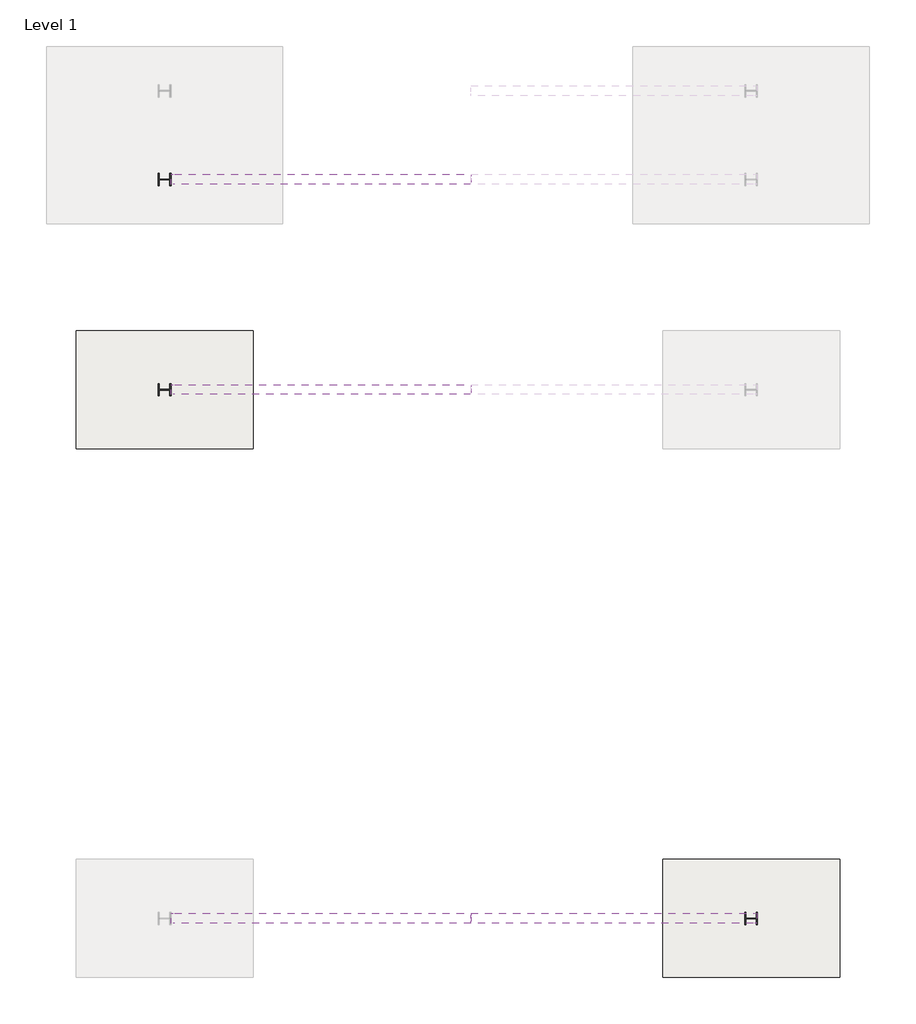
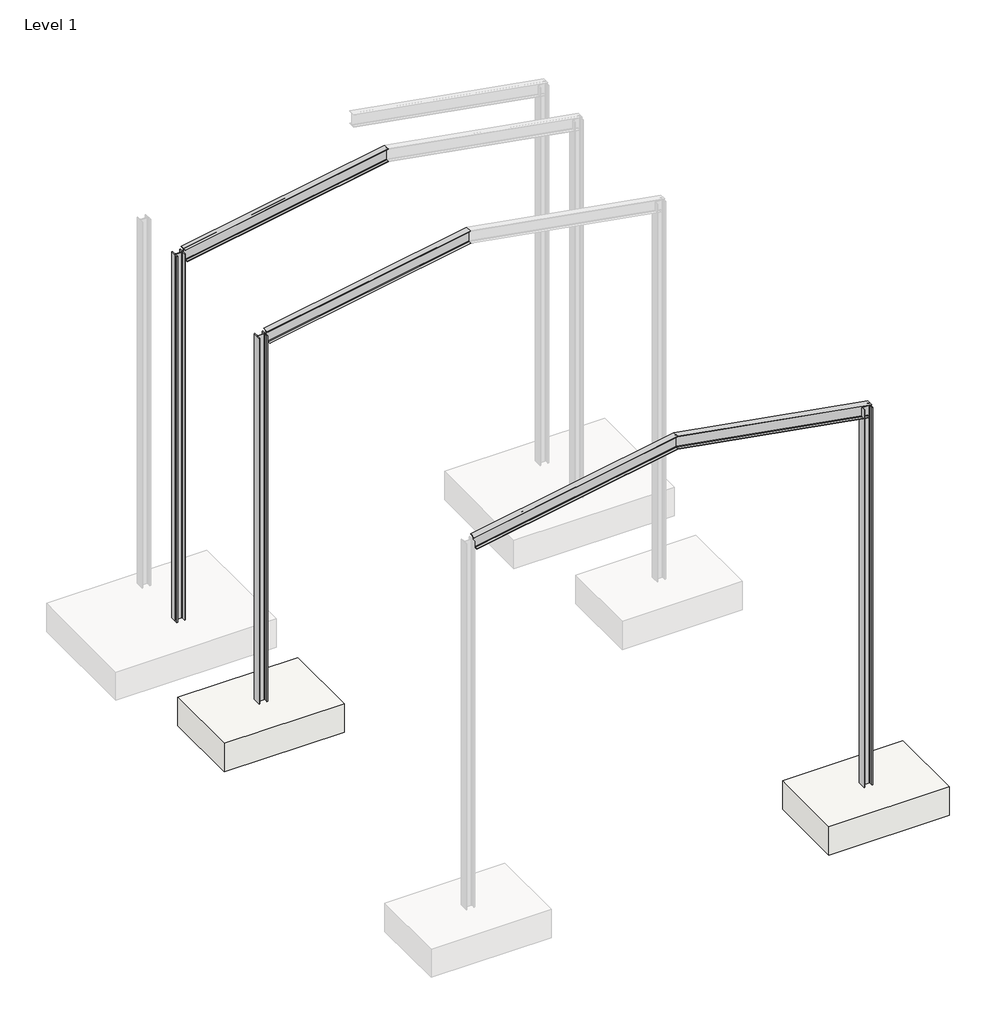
# One storey, part 2 of 3: 4 beams, 3 columns, 2 slabs.
"""IFC4 building model written with IfcOpenShell, lengths in millimetres."""

from ifc_helpers import new_model, si_unit, point, frame, frame_2d, origin, place, context, project, spatial, polyline, circle_curve, ellipse_curve, trimmed, segment, composite_curve, outline, extrude, transform, mapped, element, save
from ifc_brep_helpers import plane_surface, revolved_surface, advanced_brep
from components import slab_5ba74754

model = new_model("IFC4")

# Units and contexts
model_context = context("Model", 3, world=origin())
ifc_project = project(units=[si_unit("LENGTHUNIT", "METRE", prefix="MILLI")], contexts=[model_context])

# Site, building, storey
site = spatial("IfcSite", under=ifc_project)
building = spatial("IfcBuilding", under=site)
storey = spatial("IfcBuildingStorey", under=building, Name="Level 1", Elevation=0.0)

# Beams
placement = place(None, origin())
element("IfcBeam", 1, ObjectType="W Shapes : W8X10", at=placement, inside=storey, context=model_context, shape_type="AdvancedBrep", body=[
    advanced_brep(
    [(-3052.4401664, 8000.6633153, 6330.8839899), (-3052.4401664, 8100.7393153, 6330.8839899), (-6145.2600056, 8100.7393153, 5785.5364057), (-6145.2600056, 8000.6633153, 5785.5364057), (-6111.3640549, 8100.7393153, 5593.3029172), (-6110.4598689, 8100.7393153, 5588.1750232), (-6110.4598689, 8000.6633153, 5588.1750232), (-6111.3640549, 8000.6633153, 5593.3029172), (-6111.3640549, 8040.9223153, 5593.3029172), (-6112.687254, 8048.5423153, 5600.8071522), (-6143.0326204, 8048.5423153, 5772.9042767), (-6144.3558195, 8040.9223153, 5780.4085118), (-6144.3558195, 8000.6633153, 5780.4085118), (-6144.3558195, 8100.7393153, 5780.4085118), (-6144.3558195, 8060.4803153, 5780.4085118), (-6143.0326204, 8052.8603153, 5772.9042767), (-6112.687254, 8052.8603153, 5600.8071522), (-6111.3640549, 8060.4803153, 5593.3029172), (-3052.4401664, 8060.4803153, 6132.6737306), (-3052.4401664, 8100.7393153, 6132.6737306), (-3052.4401664, 8052.8603153, 6140.4112814), (-3052.4401664, 8052.8603153, 6317.8591127), (-3052.4401664, 8060.4803153, 6325.5966635), (-3052.4401664, 8100.7393153, 6325.5966635), (-3052.4401664, 8000.6633153, 6325.5966635), (-3052.4401664, 8040.9223153, 6325.5966635), (-3052.4401664, 8048.5423153, 6317.8591127), (-3052.4401664, 8048.5423153, 6140.4112814), (-3052.4401664, 8040.9223153, 6132.6737306), (-3052.4401664, 8000.6633153, 6132.6737306), (-3052.4401664, 8000.6633153, 6127.3864043), (-3052.4401664, 8100.7393153, 6127.3864043)],
    [
        (0, 1),
        (1, 2),
        (2, 3),
        (3, 0),
        (4, 5),
        (5, 6),
        (6, 7),
        (7, 8),
        (8, 9, circle_curve(frame((-6112.687254, 8040.9223153, 5600.8071522), z_axis=(0.9848077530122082, 0.0, 0.17364817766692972), x_axis=(0.0, -1.0000000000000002, 0.0)), 7.62)),
        (9, 10),
        (10, 11, circle_curve(frame((-6143.0326204, 8040.9223153, 5772.9042767), z_axis=(0.9848077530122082, 0.0, 0.17364817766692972), x_axis=(0.0, -1.0000000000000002, 0.0)), 7.62)),
        (11, 12),
        (12, 3),
        (2, 13),
        (13, 14),
        (14, 15, circle_curve(frame((-6143.0326204, 8060.4803153, 5772.9042767), z_axis=(0.9848077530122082, 0.0, 0.17364817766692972), x_axis=(0.0, -1.0000000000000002, 0.0)), 7.62)),
        (15, 16),
        (16, 17, circle_curve(frame((-6112.687254, 8060.4803153, 5600.8071522), z_axis=(0.9848077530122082, 0.0, 0.17364817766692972), x_axis=(0.0, -1.0000000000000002, 0.0)), 7.62)),
        (17, 4),
        (18, 19),
        (19, 4),
        (17, 18),
        (20, 18, ellipse_curve(frame((-3052.4401664, 8060.4803153, 6140.4112814), z_axis=(1.0, 0.0, 0.0), x_axis=(0.0, 0.0, -1.0)), 7.7375508, 7.62)),
        (16, 20),
        (21, 20),
        (15, 21),
        (22, 21, ellipse_curve(frame((-3052.4401664, 8060.4803153, 6317.8591127), z_axis=(1.0, 0.0, 0.0), x_axis=(0.0, 0.0, -1.0)), 7.7375508, 7.62)),
        (14, 22),
        (23, 22),
        (13, 23),
        (1, 23),
        (24, 0),
        (12, 24),
        (25, 24),
        (11, 25),
        (26, 25, ellipse_curve(frame((-3052.4401664, 8040.9223153, 6317.8591127), z_axis=(1.0, 0.0, 0.0), x_axis=(0.0, 0.0, -1.0)), 7.7375508, 7.62)),
        (10, 26),
        (27, 26),
        (9, 27),
        (28, 27, ellipse_curve(frame((-3052.4401664, 8040.9223153, 6140.4112814), z_axis=(1.0, 0.0, 0.0), x_axis=(0.0, 0.0, -1.0)), 7.7375508, 7.62)),
        (8, 28),
        (29, 28),
        (7, 29),
        (30, 29),
        (6, 30),
        (31, 30),
        (5, 31),
        (19, 31),
    ],
    [
        plane_surface(frame((-3052.4401664, 8100.7393153, 6330.8839899), z_axis=(-0.17364817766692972, 0.0, 0.9848077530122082), x_axis=(-0.9848077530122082, 0.0, -0.17364817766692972))),
        plane_surface(frame((-6127.8599372, 8050.7013153, 5686.8557145), z_axis=(-0.9848077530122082, 0.0, -0.17364817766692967), x_axis=(-0.17364817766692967, 0.0, 0.9848077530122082))),
        plane_surface(frame((-3018.5442158, 8100.7393153, 6138.6505013), z_axis=(-0.17364817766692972, 0.0, 0.9848077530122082), x_axis=(-0.9848077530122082, 0.0, -0.17364817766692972))),
        revolved_surface(polyline([(-6112.687254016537, 8052.8603153, 5600.807152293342), (-3051.1169672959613, 8052.8603153, 6140.644597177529)]), (-3019.8674149, 8060.4803153, 6146.1547364), (-0.9848077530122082, 0.0, -0.17364817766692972)),
        plane_surface(frame((-3019.8674149, 8052.8603153, 6146.1547364), z_axis=(0.0, 1.0000000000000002, 0.0), x_axis=(-0.9848077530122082, 0.0, -0.17364817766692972))),
        revolved_surface(polyline([(-6143.032620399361, 8052.8603153, 5772.904276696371), (-3051.116967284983, 8052.8603153, 6318.092428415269)]), (-3050.2127813, 8060.4803153, 6318.2518608), (-0.9848077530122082, 0.0, -0.17364817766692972)),
        plane_surface(frame((-3051.5359804, 8060.4803153, 6325.7560959), z_axis=(0.17364817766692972, 0.0, -0.9848077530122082), x_axis=(-0.9848077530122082, 0.0, -0.17364817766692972))),
        plane_surface(frame((-3051.5359804, 8100.7393153, 6325.7560959), z_axis=(0.0, 1.0000000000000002, 0.0), x_axis=(-0.9848077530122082, 0.0, -0.17364817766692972))),
        plane_surface(frame((-3052.4401664, 8000.6633153, 6330.8839899), z_axis=(0.0, -1.0000000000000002, 0.0), x_axis=(-0.9848077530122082, 0.0, -0.17364817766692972))),
        plane_surface(frame((-3051.5359804, 8000.6633153, 6325.7560959), z_axis=(0.17364817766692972, 0.0, -0.9848077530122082), x_axis=(-0.9848077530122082, 0.0, -0.17364817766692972))),
        revolved_surface(polyline([(-6143.032620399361, 8033.3023153, 5772.904276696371), (-3051.116967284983, 8033.3023153, 6318.092428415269)]), (-3050.2127813, 8040.9223153, 6318.2518608), (-0.9848077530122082, 0.0, -0.17364817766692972)),
        plane_surface(frame((-3050.2127813, 8048.5423153, 6318.2518608), z_axis=(0.0, -1.0000000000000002, 0.0), x_axis=(-0.9848077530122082, 0.0, -0.17364817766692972))),
        revolved_surface(polyline([(-6112.687254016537, 8033.3023153, 5600.807152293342), (-3051.1169672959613, 8033.3023153, 6140.644597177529)]), (-3019.8674149, 8040.9223153, 6146.1547364), (-0.9848077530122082, 0.0, -0.17364817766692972)),
        plane_surface(frame((-3018.5442158, 8040.9223153, 6138.6505013), z_axis=(-0.17364817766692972, 0.0, 0.9848077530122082), x_axis=(-0.9848077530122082, 0.0, -0.17364817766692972))),
        plane_surface(frame((-3018.5442158, 8000.6633153, 6138.6505013), z_axis=(0.0, -1.0000000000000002, 0.0), x_axis=(-0.9848077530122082, 0.0, -0.17364817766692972))),
        plane_surface(frame((-3017.6400297, 8000.6633153, 6133.5226073), z_axis=(0.17364817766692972, 0.0, -0.9848077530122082), x_axis=(-0.9848077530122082, 0.0, -0.17364817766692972))),
        plane_surface(frame((-3017.6400297, 8100.7393153, 6133.5226073), z_axis=(0.0, 1.0000000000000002, 0.0), x_axis=(-0.9848077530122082, 0.0, -0.17364817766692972))),
        plane_surface(frame((-3052.4401664, 8050.7013153, 6330.8839899), z_axis=(1.0, 0.0, 0.0), x_axis=(0.0, -1.0, 0.0))),
    ],
    [
        (0, [[1, 2, 3, 4]]),
        (1, [[5, 6, 7, 8, 9, 10, 11, 12, 13, -3, 14, 15, 16, 17, 18, 19]]),
        (2, [[20, 21, -19, 22]]),
        (3, [[23, -22, -18, 24]]),
        (4, [[25, -24, -17, 26]]),
        (5, [[27, -26, -16, 28]]),
        (6, [[29, -28, -15, 30]]),
        (7, [[31, -30, -14, -2]]),
        (8, [[32, -4, -13, 33]]),
        (9, [[34, -33, -12, 35]]),
        (10, [[36, -35, -11, 37]]),
        (11, [[38, -37, -10, 39]]),
        (12, [[40, -39, -9, 41]]),
        (13, [[42, -41, -8, 43]]),
        (14, [[44, -43, -7, 45]]),
        (15, [[46, -45, -6, 47]]),
        (16, [[48, -47, -5, -21]]),
        (17, [[-20, -23, -25, -27, -29, -31, -1, -32, -34, -36, -38, -40, -42, -44, -46, -48]]),
    ],
),
])
element("IfcBeam", 2, ObjectType="W Shapes : W8X10", at=placement, inside=storey, context=model_context, shape_type="AdvancedBrep", body=[
    advanced_brep(
    [(-100.7743691, 8000.6633153, 5810.4256718), (-100.7743691, 8100.7393153, 5810.4256718), (-3052.4401664, 8100.7393153, 6330.8839899), (-3052.4401664, 8000.6633153, 6330.8839899), (-134.6703197, 8100.7393153, 5618.1921832), (-134.6703197, 8060.4803153, 5618.1921832), (-133.3471206, 8052.8603153, 5625.6964182), (-103.0017543, 8052.8603153, 5797.7935427), (-101.6785552, 8060.4803153, 5805.2977778), (-101.6785552, 8100.7393153, 5805.2977778), (-101.6785552, 8000.6633153, 5805.2977778), (-101.6785552, 8040.9223153, 5805.2977778), (-103.0017543, 8048.5423153, 5797.7935427), (-133.3471206, 8048.5423153, 5625.6964182), (-134.6703197, 8040.9223153, 5618.1921832), (-134.6703197, 8000.6633153, 5618.1921832), (-135.5745058, 8000.6633153, 5613.0642892), (-135.5745058, 8100.7393153, 5613.0642892), (-3052.4401664, 8100.7393153, 6132.6737306), (-3052.4401664, 8060.4803153, 6132.6737306), (-3052.4401664, 8052.8603153, 6140.4112814), (-3052.4401664, 8052.8603153, 6317.8591127), (-3052.4401664, 8060.4803153, 6325.5966635), (-3052.4401664, 8100.7393153, 6325.5966635), (-3052.4401664, 8000.6633153, 6325.5966635), (-3052.4401664, 8040.9223153, 6325.5966635), (-3052.4401664, 8048.5423153, 6317.8591127), (-3052.4401664, 8048.5423153, 6140.4112814), (-3052.4401664, 8040.9223153, 6132.6737306), (-3052.4401664, 8000.6633153, 6132.6737306), (-3052.4401664, 8000.6633153, 6127.3864043), (-3052.4401664, 8100.7393153, 6127.3864043)],
    [
        (0, 1),
        (1, 2),
        (2, 3),
        (3, 0),
        (4, 5),
        (5, 6, circle_curve(frame((-133.3471206, 8060.4803153, 5625.6964182), z_axis=(-0.9848077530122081, 0.0, 0.17364817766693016), x_axis=(0.0, -1.0, 0.0)), 7.62)),
        (6, 7),
        (7, 8, circle_curve(frame((-103.0017543, 8060.4803153, 5797.7935427), z_axis=(-0.9848077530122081, 0.0, 0.17364817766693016), x_axis=(0.0, -1.0, 0.0)), 7.62)),
        (8, 9),
        (9, 1),
        (0, 10),
        (10, 11),
        (11, 12, circle_curve(frame((-103.0017543, 8040.9223153, 5797.7935427), z_axis=(-0.9848077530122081, 0.0, 0.17364817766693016), x_axis=(0.0, -1.0, 0.0)), 7.62)),
        (12, 13),
        (13, 14, circle_curve(frame((-133.3471206, 8040.9223153, 5625.6964182), z_axis=(-0.9848077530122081, 0.0, 0.17364817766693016), x_axis=(0.0, -1.0, 0.0)), 7.62)),
        (14, 15),
        (15, 16),
        (16, 17),
        (17, 4),
        (4, 18),
        (18, 19),
        (19, 5),
        (19, 20, ellipse_curve(frame((-3052.4401664, 8060.4803153, 6140.4112814), z_axis=(-1.0, 0.0, 0.0), x_axis=(0.0, 0.0, 1.0)), 7.7375508, 7.62)),
        (20, 6),
        (20, 21),
        (21, 7),
        (21, 22, ellipse_curve(frame((-3052.4401664, 8060.4803153, 6317.8591127), z_axis=(-1.0, 0.0, 0.0), x_axis=(0.0, 0.0, 1.0)), 7.7375508, 7.62)),
        (22, 8),
        (22, 23),
        (23, 9),
        (23, 2),
        (3, 24),
        (24, 10),
        (24, 25),
        (25, 11),
        (25, 26, ellipse_curve(frame((-3052.4401664, 8040.9223153, 6317.8591127), z_axis=(-1.0, 0.0, 0.0), x_axis=(0.0, 0.0, 1.0)), 7.7375508, 7.62)),
        (26, 12),
        (26, 27),
        (27, 13),
        (27, 28, ellipse_curve(frame((-3052.4401664, 8040.9223153, 6140.4112814), z_axis=(-1.0, 0.0, 0.0), x_axis=(0.0, 0.0, 1.0)), 7.7375508, 7.62)),
        (28, 14),
        (28, 29),
        (29, 15),
        (29, 30),
        (30, 16),
        (30, 31),
        (31, 17),
        (31, 18),
    ],
    [
        plane_surface(frame((-100.7743691, 8100.7393153, 5810.4256718), z_axis=(0.17364817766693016, 0.0, 0.9848077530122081), x_axis=(-0.9848077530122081, 0.0, 0.17364817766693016))),
        plane_surface(frame((-118.1744374, 8050.7013153, 5711.7449805), z_axis=(0.9848077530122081, 0.0, -0.1736481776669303), x_axis=(0.1736481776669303, 0.0, 0.9848077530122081))),
        plane_surface(frame((-134.6703197, 8100.7393153, 5618.1921832), z_axis=(0.17364817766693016, 0.0, 0.9848077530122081), x_axis=(-0.9848077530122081, 0.0, 0.17364817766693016))),
        revolved_surface(polyline([(-3053.763365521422, 8052.8603153, 6140.644597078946), (-133.34712059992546, 8052.8603153, 5625.696418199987)]), (-133.3471206, 8060.4803153, 5625.6964182), (-0.9848077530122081, 0.0, 0.17364817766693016)),
        plane_surface(frame((-133.3471206, 8052.8603153, 5625.6964182), z_axis=(0.0, 1.0, 0.0), x_axis=(-0.9848077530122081, 0.0, 0.17364817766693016))),
        revolved_surface(polyline([(-3053.763365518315, 8052.8603153, 6318.0924283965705), (-103.0017543, 8052.8603153, 5797.7935427)]), (-103.0017543, 8060.4803153, 5797.7935427), (-0.9848077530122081, 0.0, 0.17364817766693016)),
        plane_surface(frame((-101.6785552, 8060.4803153, 5805.2977778), z_axis=(-0.17364817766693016, 0.0, -0.9848077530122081), x_axis=(-0.9848077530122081, 0.0, 0.17364817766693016))),
        plane_surface(frame((-101.6785552, 8100.7393153, 5805.2977778), z_axis=(0.0, 1.0, 0.0), x_axis=(-0.9848077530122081, 0.0, 0.17364817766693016))),
        plane_surface(frame((-100.7743691, 8000.6633153, 5810.4256718), z_axis=(0.0, -1.0, 0.0), x_axis=(-0.9848077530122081, 0.0, 0.17364817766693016))),
        plane_surface(frame((-101.6785552, 8000.6633153, 5805.2977778), z_axis=(-0.17364817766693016, 0.0, -0.9848077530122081), x_axis=(-0.9848077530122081, 0.0, 0.17364817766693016))),
        revolved_surface(polyline([(-3053.763365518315, 8033.3023153, 6318.0924283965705), (-103.0017543, 8033.3023153, 5797.7935427)]), (-103.0017543, 8040.9223153, 5797.7935427), (-0.9848077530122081, 0.0, 0.17364817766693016)),
        plane_surface(frame((-103.0017543, 8048.5423153, 5797.7935427), z_axis=(0.0, -1.0, 0.0), x_axis=(-0.9848077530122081, 0.0, 0.17364817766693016))),
        revolved_surface(polyline([(-3053.763365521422, 8033.3023153, 6140.644597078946), (-133.34712059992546, 8033.3023153, 5625.696418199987)]), (-133.3471206, 8040.9223153, 5625.6964182), (-0.9848077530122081, 0.0, 0.17364817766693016)),
        plane_surface(frame((-134.6703197, 8040.9223153, 5618.1921832), z_axis=(0.17364817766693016, 0.0, 0.9848077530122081), x_axis=(-0.9848077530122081, 0.0, 0.17364817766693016))),
        plane_surface(frame((-134.6703197, 8000.6633153, 5618.1921832), z_axis=(0.0, -1.0, 0.0), x_axis=(-0.9848077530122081, 0.0, 0.17364817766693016))),
        plane_surface(frame((-135.5745058, 8000.6633153, 5613.0642892), z_axis=(-0.17364817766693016, 0.0, -0.9848077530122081), x_axis=(-0.9848077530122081, 0.0, 0.17364817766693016))),
        plane_surface(frame((-135.5745058, 8100.7393153, 5613.0642892), z_axis=(0.0, 1.0, 0.0), x_axis=(-0.9848077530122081, 0.0, 0.17364817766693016))),
        plane_surface(frame((-3052.4401664, 8050.7013153, 6330.8839899), z_axis=(-1.0, 0.0, 0.0), x_axis=(0.0, 1.0, 0.0))),
    ],
    [
        (0, [[1, 2, 3, 4]]),
        (1, [[5, 6, 7, 8, 9, 10, -1, 11, 12, 13, 14, 15, 16, 17, 18, 19]]),
        (2, [[-5, 20, 21, 22]]),
        (3, [[-6, -22, 23, 24]]),
        (4, [[-7, -24, 25, 26]]),
        (5, [[-8, -26, 27, 28]]),
        (6, [[-9, -28, 29, 30]]),
        (7, [[-10, -30, 31, -2]]),
        (8, [[-11, -4, 32, 33]]),
        (9, [[-12, -33, 34, 35]]),
        (10, [[-13, -35, 36, 37]]),
        (11, [[-14, -37, 38, 39]]),
        (12, [[-15, -39, 40, 41]]),
        (13, [[-16, -41, 42, 43]]),
        (14, [[-17, -43, 44, 45]]),
        (15, [[-18, -45, 46, 47]]),
        (16, [[-19, -47, 48, -20]]),
        (17, [[-48, -46, -44, -42, -40, -38, -36, -34, -32, -3, -31, -29, -27, -25, -23, -21]]),
    ],
),
])
element("IfcBeam", 3, ObjectType="W Shapes : W8X10", at=placement, inside=storey, context=model_context, shape_type="AdvancedBrep", body=[
    advanced_brep(
    [(-3052.4401664, 13457.1276009, 6330.8839899), (-3052.4401664, 13557.2036009, 6330.8839899), (-6145.2600056, 13557.2036009, 5785.5364057), (-6145.2600056, 13457.1276009, 5785.5364057), (-6111.3640549, 13557.2036009, 5593.3029172), (-6110.4598689, 13557.2036009, 5588.1750232), (-6110.4598689, 13457.1276009, 5588.1750232), (-6111.3640549, 13457.1276009, 5593.3029172), (-6111.3640549, 13497.3866009, 5593.3029172), (-6112.687254, 13505.0066009, 5600.8071522), (-6143.0326204, 13505.0066009, 5772.9042767), (-6144.3558195, 13497.3866009, 5780.4085118), (-6144.3558195, 13457.1276009, 5780.4085118), (-6144.3558195, 13557.2036009, 5780.4085118), (-6144.3558195, 13516.9446009, 5780.4085118), (-6143.0326204, 13509.3246009, 5772.9042767), (-6112.687254, 13509.3246009, 5600.8071522), (-6111.3640549, 13516.9446009, 5593.3029172), (-3052.4401664, 13516.9446009, 6132.6737306), (-3052.4401664, 13557.2036009, 6132.6737306), (-3052.4401664, 13509.3246009, 6140.4112814), (-3052.4401664, 13509.3246009, 6317.8591127), (-3052.4401664, 13516.9446009, 6325.5966635), (-3052.4401664, 13557.2036009, 6325.5966635), (-3052.4401664, 13457.1276009, 6325.5966635), (-3052.4401664, 13497.3866009, 6325.5966635), (-3052.4401664, 13505.0066009, 6317.8591127), (-3052.4401664, 13505.0066009, 6140.4112814), (-3052.4401664, 13497.3866009, 6132.6737306), (-3052.4401664, 13457.1276009, 6132.6737306), (-3052.4401664, 13457.1276009, 6127.3864043), (-3052.4401664, 13557.2036009, 6127.3864043)],
    [
        (0, 1),
        (1, 2),
        (2, 3),
        (3, 0),
        (4, 5),
        (5, 6),
        (6, 7),
        (7, 8),
        (8, 9, circle_curve(frame((-6112.687254, 13497.3866009, 5600.8071522), z_axis=(0.9848077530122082, 0.0, 0.17364817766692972), x_axis=(0.0, -1.0000000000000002, 0.0)), 7.62)),
        (9, 10),
        (10, 11, circle_curve(frame((-6143.0326204, 13497.3866009, 5772.9042767), z_axis=(0.9848077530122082, 0.0, 0.17364817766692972), x_axis=(0.0, -1.0000000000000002, 0.0)), 7.62)),
        (11, 12),
        (12, 3),
        (2, 13),
        (13, 14),
        (14, 15, circle_curve(frame((-6143.0326204, 13516.9446009, 5772.9042767), z_axis=(0.9848077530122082, 0.0, 0.17364817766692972), x_axis=(0.0, -1.0000000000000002, 0.0)), 7.62)),
        (15, 16),
        (16, 17, circle_curve(frame((-6112.687254, 13516.9446009, 5600.8071522), z_axis=(0.9848077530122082, 0.0, 0.17364817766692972), x_axis=(0.0, -1.0000000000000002, 0.0)), 7.62)),
        (17, 4),
        (18, 19),
        (19, 4),
        (17, 18),
        (20, 18, ellipse_curve(frame((-3052.4401664, 13516.9446009, 6140.4112814), z_axis=(1.0, 0.0, 0.0), x_axis=(0.0, 0.0, -1.0)), 7.7375508, 7.62)),
        (16, 20),
        (21, 20),
        (15, 21),
        (22, 21, ellipse_curve(frame((-3052.4401664, 13516.9446009, 6317.8591127), z_axis=(1.0, 0.0, 0.0), x_axis=(0.0, 0.0, -1.0)), 7.7375508, 7.62)),
        (14, 22),
        (23, 22),
        (13, 23),
        (1, 23),
        (24, 0),
        (12, 24),
        (25, 24),
        (11, 25),
        (26, 25, ellipse_curve(frame((-3052.4401664, 13497.3866009, 6317.8591127), z_axis=(1.0, 0.0, 0.0), x_axis=(0.0, 0.0, -1.0)), 7.7375508, 7.62)),
        (10, 26),
        (27, 26),
        (9, 27),
        (28, 27, ellipse_curve(frame((-3052.4401664, 13497.3866009, 6140.4112814), z_axis=(1.0, 0.0, 0.0), x_axis=(0.0, 0.0, -1.0)), 7.7375508, 7.62)),
        (8, 28),
        (29, 28),
        (7, 29),
        (30, 29),
        (6, 30),
        (31, 30),
        (5, 31),
        (19, 31),
    ],
    [
        plane_surface(frame((-3052.4401664, 13557.2036009, 6330.8839899), z_axis=(-0.17364817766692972, 0.0, 0.9848077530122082), x_axis=(-0.9848077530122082, 0.0, -0.17364817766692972))),
        plane_surface(frame((-6127.8599372, 13507.1656009, 5686.8557145), z_axis=(-0.9848077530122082, 0.0, -0.17364817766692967), x_axis=(-0.17364817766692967, 0.0, 0.9848077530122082))),
        plane_surface(frame((-3018.5442158, 13557.2036009, 6138.6505013), z_axis=(-0.17364817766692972, 0.0, 0.9848077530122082), x_axis=(-0.9848077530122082, 0.0, -0.17364817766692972))),
        revolved_surface(polyline([(-6112.687254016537, 13509.3246009, 5600.807152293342), (-3051.1169672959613, 13509.3246009, 6140.644597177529)]), (-3019.8674149, 13516.9446009, 6146.1547364), (-0.9848077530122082, 0.0, -0.17364817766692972)),
        plane_surface(frame((-3019.8674149, 13509.3246009, 6146.1547364), z_axis=(0.0, 1.0000000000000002, 0.0), x_axis=(-0.9848077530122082, 0.0, -0.17364817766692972))),
        revolved_surface(polyline([(-6143.032620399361, 13509.3246009, 5772.904276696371), (-3051.116967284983, 13509.3246009, 6318.092428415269)]), (-3050.2127813, 13516.9446009, 6318.2518608), (-0.9848077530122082, 0.0, -0.17364817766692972)),
        plane_surface(frame((-3051.5359804, 13516.9446009, 6325.7560959), z_axis=(0.17364817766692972, 0.0, -0.9848077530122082), x_axis=(-0.9848077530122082, 0.0, -0.17364817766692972))),
        plane_surface(frame((-3051.5359804, 13557.2036009, 6325.7560959), z_axis=(0.0, 1.0000000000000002, 0.0), x_axis=(-0.9848077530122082, 0.0, -0.17364817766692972))),
        plane_surface(frame((-3052.4401664, 13457.1276009, 6330.8839899), z_axis=(0.0, -1.0000000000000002, 0.0), x_axis=(-0.9848077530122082, 0.0, -0.17364817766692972))),
        plane_surface(frame((-3051.5359804, 13457.1276009, 6325.7560959), z_axis=(0.17364817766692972, 0.0, -0.9848077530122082), x_axis=(-0.9848077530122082, 0.0, -0.17364817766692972))),
        revolved_surface(polyline([(-6143.032620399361, 13489.766600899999, 5772.904276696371), (-3051.116967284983, 13489.766600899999, 6318.092428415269)]), (-3050.2127813, 13497.3866009, 6318.2518608), (-0.9848077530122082, 0.0, -0.17364817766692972)),
        plane_surface(frame((-3050.2127813, 13505.0066009, 6318.2518608), z_axis=(0.0, -1.0000000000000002, 0.0), x_axis=(-0.9848077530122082, 0.0, -0.17364817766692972))),
        revolved_surface(polyline([(-6112.687254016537, 13489.766600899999, 5600.807152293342), (-3051.1169672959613, 13489.766600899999, 6140.644597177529)]), (-3019.8674149, 13497.3866009, 6146.1547364), (-0.9848077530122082, 0.0, -0.17364817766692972)),
        plane_surface(frame((-3018.5442158, 13497.3866009, 6138.6505013), z_axis=(-0.17364817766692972, 0.0, 0.9848077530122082), x_axis=(-0.9848077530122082, 0.0, -0.17364817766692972))),
        plane_surface(frame((-3018.5442158, 13457.1276009, 6138.6505013), z_axis=(0.0, -1.0000000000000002, 0.0), x_axis=(-0.9848077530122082, 0.0, -0.17364817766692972))),
        plane_surface(frame((-3017.6400297, 13457.1276009, 6133.5226073), z_axis=(0.17364817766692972, 0.0, -0.9848077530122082), x_axis=(-0.9848077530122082, 0.0, -0.17364817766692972))),
        plane_surface(frame((-3017.6400297, 13557.2036009, 6133.5226073), z_axis=(0.0, 1.0000000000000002, 0.0), x_axis=(-0.9848077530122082, 0.0, -0.17364817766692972))),
        plane_surface(frame((-3052.4401664, 13507.1656009, 6330.8839899), z_axis=(1.0, 0.0, 0.0), x_axis=(0.0, -1.0, 0.0))),
    ],
    [
        (0, [[1, 2, 3, 4]]),
        (1, [[5, 6, 7, 8, 9, 10, 11, 12, 13, -3, 14, 15, 16, 17, 18, 19]]),
        (2, [[20, 21, -19, 22]]),
        (3, [[23, -22, -18, 24]]),
        (4, [[25, -24, -17, 26]]),
        (5, [[27, -26, -16, 28]]),
        (6, [[29, -28, -15, 30]]),
        (7, [[31, -30, -14, -2]]),
        (8, [[32, -4, -13, 33]]),
        (9, [[34, -33, -12, 35]]),
        (10, [[36, -35, -11, 37]]),
        (11, [[38, -37, -10, 39]]),
        (12, [[40, -39, -9, 41]]),
        (13, [[42, -41, -8, 43]]),
        (14, [[44, -43, -7, 45]]),
        (15, [[46, -45, -6, 47]]),
        (16, [[48, -47, -5, -21]]),
        (17, [[-20, -23, -25, -27, -29, -31, -1, -32, -34, -36, -38, -40, -42, -44, -46, -48]]),
    ],
),
])
element("IfcBeam", 4, ObjectType="W Shapes : W8X10", at=placement, inside=storey, context=model_context, shape_type="AdvancedBrep", body=[
    advanced_brep(
    [(-3052.4401664, 15627.4668866, 6330.8839899), (-3052.4401664, 15727.5428866, 6330.8839899), (-6145.2600056, 15727.5428866, 5785.5364057), (-6145.2600056, 15627.4668866, 5785.5364057), (-6111.3640549, 15727.5428866, 5593.3029172), (-6110.4598689, 15727.5428866, 5588.1750232), (-6110.4598689, 15627.4668866, 5588.1750232), (-6111.3640549, 15627.4668866, 5593.3029172), (-6111.3640549, 15667.7258866, 5593.3029172), (-6112.687254, 15675.3458866, 5600.8071522), (-6143.0326204, 15675.3458866, 5772.9042767), (-6144.3558195, 15667.7258866, 5780.4085118), (-6144.3558195, 15627.4668866, 5780.4085118), (-6144.3558195, 15727.5428866, 5780.4085118), (-6144.3558195, 15687.2838866, 5780.4085118), (-6143.0326204, 15679.6638866, 5772.9042767), (-6112.687254, 15679.6638866, 5600.8071522), (-6111.3640549, 15687.2838866, 5593.3029172), (-3052.4401664, 15687.2838866, 6132.6737306), (-3052.4401664, 15727.5428866, 6132.6737306), (-3052.4401664, 15679.6638866, 6140.4112814), (-3052.4401664, 15679.6638866, 6317.8591127), (-3052.4401664, 15687.2838866, 6325.5966635), (-3052.4401664, 15727.5428866, 6325.5966635), (-3052.4401664, 15627.4668866, 6325.5966635), (-3052.4401664, 15667.7258866, 6325.5966635), (-3052.4401664, 15675.3458866, 6317.8591127), (-3052.4401664, 15675.3458866, 6140.4112814), (-3052.4401664, 15667.7258866, 6132.6737306), (-3052.4401664, 15627.4668866, 6132.6737306), (-3052.4401664, 15627.4668866, 6127.3864043), (-3052.4401664, 15727.5428866, 6127.3864043)],
    [
        (0, 1),
        (1, 2),
        (2, 3),
        (3, 0),
        (4, 5),
        (5, 6),
        (6, 7),
        (7, 8),
        (8, 9, circle_curve(frame((-6112.687254, 15667.7258866, 5600.8071522), z_axis=(0.9848077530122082, 0.0, 0.17364817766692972), x_axis=(0.0, -1.0000000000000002, 0.0)), 7.62)),
        (9, 10),
        (10, 11, circle_curve(frame((-6143.0326204, 15667.7258866, 5772.9042767), z_axis=(0.9848077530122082, 0.0, 0.17364817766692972), x_axis=(0.0, -1.0000000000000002, 0.0)), 7.62)),
        (11, 12),
        (12, 3),
        (2, 13),
        (13, 14),
        (14, 15, circle_curve(frame((-6143.0326204, 15687.2838866, 5772.9042767), z_axis=(0.9848077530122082, 0.0, 0.17364817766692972), x_axis=(0.0, -1.0000000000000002, 0.0)), 7.62)),
        (15, 16),
        (16, 17, circle_curve(frame((-6112.687254, 15687.2838866, 5600.8071522), z_axis=(0.9848077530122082, 0.0, 0.17364817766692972), x_axis=(0.0, -1.0000000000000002, 0.0)), 7.62)),
        (17, 4),
        (18, 19),
        (19, 4),
        (17, 18),
        (20, 18, ellipse_curve(frame((-3052.4401664, 15687.2838866, 6140.4112814), z_axis=(1.0, 0.0, 0.0), x_axis=(0.0, 0.0, -1.0)), 7.7375508, 7.62)),
        (16, 20),
        (21, 20),
        (15, 21),
        (22, 21, ellipse_curve(frame((-3052.4401664, 15687.2838866, 6317.8591127), z_axis=(1.0, 0.0, 0.0), x_axis=(0.0, 0.0, -1.0)), 7.7375508, 7.62)),
        (14, 22),
        (23, 22),
        (13, 23),
        (1, 23),
        (24, 0),
        (12, 24),
        (25, 24),
        (11, 25),
        (26, 25, ellipse_curve(frame((-3052.4401664, 15667.7258866, 6317.8591127), z_axis=(1.0, 0.0, 0.0), x_axis=(0.0, 0.0, -1.0)), 7.7375508, 7.62)),
        (10, 26),
        (27, 26),
        (9, 27),
        (28, 27, ellipse_curve(frame((-3052.4401664, 15667.7258866, 6140.4112814), z_axis=(1.0, 0.0, 0.0), x_axis=(0.0, 0.0, -1.0)), 7.7375508, 7.62)),
        (8, 28),
        (29, 28),
        (7, 29),
        (30, 29),
        (6, 30),
        (31, 30),
        (5, 31),
        (19, 31),
    ],
    [
        plane_surface(frame((-3052.4401664, 15727.5428866, 6330.8839899), z_axis=(-0.17364817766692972, 0.0, 0.9848077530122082), x_axis=(-0.9848077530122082, 0.0, -0.17364817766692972))),
        plane_surface(frame((-6127.8599372, 15677.5048866, 5686.8557145), z_axis=(-0.9848077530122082, 0.0, -0.17364817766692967), x_axis=(-0.17364817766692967, 0.0, 0.9848077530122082))),
        plane_surface(frame((-3018.5442158, 15727.5428866, 6138.6505013), z_axis=(-0.17364817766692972, 0.0, 0.9848077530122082), x_axis=(-0.9848077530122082, 0.0, -0.17364817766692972))),
        revolved_surface(polyline([(-6112.687254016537, 15679.6638866, 5600.807152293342), (-3051.1169672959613, 15679.6638866, 6140.644597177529)]), (-3019.8674149, 15687.2838866, 6146.1547364), (-0.9848077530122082, 0.0, -0.17364817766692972)),
        plane_surface(frame((-3019.8674149, 15679.6638866, 6146.1547364), z_axis=(0.0, 1.0000000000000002, 0.0), x_axis=(-0.9848077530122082, 0.0, -0.17364817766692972))),
        revolved_surface(polyline([(-6143.032620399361, 15679.6638866, 5772.904276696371), (-3051.116967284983, 15679.6638866, 6318.092428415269)]), (-3050.2127813, 15687.2838866, 6318.2518608), (-0.9848077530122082, 0.0, -0.17364817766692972)),
        plane_surface(frame((-3051.5359804, 15687.2838866, 6325.7560959), z_axis=(0.17364817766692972, 0.0, -0.9848077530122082), x_axis=(-0.9848077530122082, 0.0, -0.17364817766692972))),
        plane_surface(frame((-3051.5359804, 15727.5428866, 6325.7560959), z_axis=(0.0, 1.0000000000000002, 0.0), x_axis=(-0.9848077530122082, 0.0, -0.17364817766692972))),
        plane_surface(frame((-3052.4401664, 15627.4668866, 6330.8839899), z_axis=(0.0, -1.0000000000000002, 0.0), x_axis=(-0.9848077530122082, 0.0, -0.17364817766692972))),
        plane_surface(frame((-3051.5359804, 15627.4668866, 6325.7560959), z_axis=(0.17364817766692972, 0.0, -0.9848077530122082), x_axis=(-0.9848077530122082, 0.0, -0.17364817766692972))),
        revolved_surface(polyline([(-6143.032620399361, 15660.105886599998, 5772.904276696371), (-3051.116967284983, 15660.105886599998, 6318.092428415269)]), (-3050.2127813, 15667.7258866, 6318.2518608), (-0.9848077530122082, 0.0, -0.17364817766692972)),
        plane_surface(frame((-3050.2127813, 15675.3458866, 6318.2518608), z_axis=(0.0, -1.0000000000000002, 0.0), x_axis=(-0.9848077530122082, 0.0, -0.17364817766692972))),
        revolved_surface(polyline([(-6112.687254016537, 15660.105886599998, 5600.807152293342), (-3051.1169672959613, 15660.105886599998, 6140.644597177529)]), (-3019.8674149, 15667.7258866, 6146.1547364), (-0.9848077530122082, 0.0, -0.17364817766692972)),
        plane_surface(frame((-3018.5442158, 15667.7258866, 6138.6505013), z_axis=(-0.17364817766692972, 0.0, 0.9848077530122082), x_axis=(-0.9848077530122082, 0.0, -0.17364817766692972))),
        plane_surface(frame((-3018.5442158, 15627.4668866, 6138.6505013), z_axis=(0.0, -1.0000000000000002, 0.0), x_axis=(-0.9848077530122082, 0.0, -0.17364817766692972))),
        plane_surface(frame((-3017.6400297, 15627.4668866, 6133.5226073), z_axis=(0.17364817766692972, 0.0, -0.9848077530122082), x_axis=(-0.9848077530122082, 0.0, -0.17364817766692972))),
        plane_surface(frame((-3017.6400297, 15727.5428866, 6133.5226073), z_axis=(0.0, 1.0000000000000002, 0.0), x_axis=(-0.9848077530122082, 0.0, -0.17364817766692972))),
        plane_surface(frame((-3052.4401664, 15677.5048866, 6330.8839899), z_axis=(1.0, 0.0, 0.0), x_axis=(0.0, -1.0, 0.0))),
    ],
    [
        (0, [[1, 2, 3, 4]]),
        (1, [[5, 6, 7, 8, 9, 10, 11, 12, 13, -3, 14, 15, 16, 17, 18, 19]]),
        (2, [[20, 21, -19, 22]]),
        (3, [[23, -22, -18, 24]]),
        (4, [[25, -24, -17, 26]]),
        (5, [[27, -26, -16, 28]]),
        (6, [[29, -28, -15, 30]]),
        (7, [[31, -30, -14, -2]]),
        (8, [[32, -4, -13, 33]]),
        (9, [[34, -33, -12, 35]]),
        (10, [[36, -35, -11, 37]]),
        (11, [[38, -37, -10, 39]]),
        (12, [[40, -39, -9, 41]]),
        (13, [[42, -41, -8, 43]]),
        (14, [[44, -43, -7, 45]]),
        (15, [[46, -45, -6, 47]]),
        (16, [[48, -47, -5, -21]]),
        (17, [[-20, -23, -25, -27, -29, -31, -1, -32, -34, -36, -38, -40, -42, -44, -46, -48]]),
    ],
),
])

# Columns
element("IfcColumn", 5, ObjectType="W-Wide Flange-Column : W5X19", at=placement, inside=storey, context=model_context, shape_type="SweptSolid", body=[
    extrude(outline(composite_curve([segment(polyline([(-222.2451664, 8114.5823153), (-211.3231664, 8114.5823153), (-211.3231664, 8063.8458153)]), True, "CONTINUOUS"), segment(trimmed(circle_curve(frame_2d((-201.6076664, 8063.8458153)), 9.7155), [point((-211.3231664, 8063.8458153))], [point((-201.6076664, 8054.1303153))], True, "CARTESIAN"), True, "CONTINUOUS"), segment(polyline([(-201.6076664, 8054.1303153), (-112.0726664, 8054.1303153)]), True, "CONTINUOUS"), segment(trimmed(circle_curve(frame_2d((-112.0726664, 8063.8458153)), 9.7155), [point((-112.0726664, 8054.1303153))], [point((-102.3571664, 8063.8458153))], True, "CARTESIAN"), True, "CONTINUOUS"), segment(polyline([(-102.3571664, 8063.8458153), (-102.3571664, 8114.5823153), (-91.4351664, 8114.5823153), (-91.4351664, 7986.8203153), (-102.3571664, 7986.8203153), (-102.3571664, 8037.5568153)]), True, "CONTINUOUS"), segment(trimmed(circle_curve(frame_2d((-112.0726664, 8037.5568153)), 9.7155), [point((-102.3571664, 8037.5568153))], [point((-112.0726664, 8047.2723153))], True, "CARTESIAN"), True, "CONTINUOUS"), segment(polyline([(-112.0726664, 8047.2723153), (-201.6076664, 8047.2723153)]), True, "CONTINUOUS"), segment(trimmed(circle_curve(frame_2d((-201.6076664, 8037.5568153)), 9.7155), [point((-201.6076664, 8047.2723153))], [point((-211.3231664, 8037.5568153))], True, "CARTESIAN"), True, "CONTINUOUS"), segment(polyline([(-211.3231664, 8037.5568153), (-211.3231664, 7986.8203153), (-222.2451664, 7986.8203153), (-222.2451664, 8114.5823153)]), True, "CONTINUOUS")], self_intersect=False)), frame((0.0, 0.0, -304.8), z_axis=(0.0, 0.0, 1.0), x_axis=(1.0, 0.0, 0.0)), (0.0, 0.0, 1.0), 6079.1336143),
])
element("IfcColumn", 6, ObjectType="W-Wide Flange-Column : W5X19", at=placement, inside=storey, context=model_context, shape_type="SweptSolid", body=[
    extrude(outline(composite_curve([segment(polyline([(-6280.1451664, 13571.0466009), (-6269.2231664, 13571.0466009), (-6269.2231664, 13520.3101009)]), True, "CONTINUOUS"), segment(trimmed(circle_curve(frame_2d((-6259.5076664, 13520.3101009)), 9.7155), [point((-6269.2231664, 13520.3101009))], [point((-6259.5076664, 13510.5946009))], True, "CARTESIAN"), True, "CONTINUOUS"), segment(polyline([(-6259.5076664, 13510.5946009), (-6169.9726664, 13510.5946009)]), True, "CONTINUOUS"), segment(trimmed(circle_curve(frame_2d((-6169.9726664, 13520.3101009)), 9.7155), [point((-6169.9726664, 13510.5946009))], [point((-6160.2571664, 13520.3101009))], True, "CARTESIAN"), True, "CONTINUOUS"), segment(polyline([(-6160.2571664, 13520.3101009), (-6160.2571664, 13571.0466009), (-6149.3351664, 13571.0466009), (-6149.3351664, 13443.2846009), (-6160.2571664, 13443.2846009), (-6160.2571664, 13494.0211009)]), True, "CONTINUOUS"), segment(trimmed(circle_curve(frame_2d((-6169.9726664, 13494.0211009)), 9.7155), [point((-6160.2571664, 13494.0211009))], [point((-6169.9726664, 13503.7366009))], True, "CARTESIAN"), True, "CONTINUOUS"), segment(polyline([(-6169.9726664, 13503.7366009), (-6259.5076664, 13503.7366009)]), True, "CONTINUOUS"), segment(trimmed(circle_curve(frame_2d((-6259.5076664, 13494.0211009)), 9.7155), [point((-6259.5076664, 13503.7366009))], [point((-6269.2231664, 13494.0211009))], True, "CARTESIAN"), True, "CONTINUOUS"), segment(polyline([(-6269.2231664, 13494.0211009), (-6269.2231664, 13443.2846009), (-6280.1451664, 13443.2846009), (-6280.1451664, 13571.0466009)]), True, "CONTINUOUS")], self_intersect=False)), frame((0.0, 0.0, -152.4), z_axis=(0.0, 0.0, 1.0), x_axis=(1.0, 0.0, 0.0)), (0.0, 0.0, 1.0), 5887.9114063),
])
element("IfcColumn", 7, ObjectType="W-Wide Flange-Column : W5X19", at=placement, inside=storey, context=model_context, shape_type="SweptSolid", body=[
    extrude(outline(composite_curve([segment(polyline([(-6280.1451664, 15741.3858866), (-6269.2231664, 15741.3858866), (-6269.2231664, 15690.6493866)]), True, "CONTINUOUS"), segment(trimmed(circle_curve(frame_2d((-6259.5076664, 15690.6493866)), 9.7155), [point((-6269.2231664, 15690.6493866))], [point((-6259.5076664, 15680.9338866))], True, "CARTESIAN"), True, "CONTINUOUS"), segment(polyline([(-6259.5076664, 15680.9338866), (-6169.9726664, 15680.9338866)]), True, "CONTINUOUS"), segment(trimmed(circle_curve(frame_2d((-6169.9726664, 15690.6493866)), 9.7155), [point((-6169.9726664, 15680.9338866))], [point((-6160.2571664, 15690.6493866))], True, "CARTESIAN"), True, "CONTINUOUS"), segment(polyline([(-6160.2571664, 15690.6493866), (-6160.2571664, 15741.3858866), (-6149.3351664, 15741.3858866), (-6149.3351664, 15613.6238866), (-6160.2571664, 15613.6238866), (-6160.2571664, 15664.3603866)]), True, "CONTINUOUS"), segment(trimmed(circle_curve(frame_2d((-6169.9726664, 15664.3603866)), 9.7155), [point((-6160.2571664, 15664.3603866))], [point((-6169.9726664, 15674.0758866))], True, "CARTESIAN"), True, "CONTINUOUS"), segment(polyline([(-6169.9726664, 15674.0758866), (-6259.5076664, 15674.0758866)]), True, "CONTINUOUS"), segment(trimmed(circle_curve(frame_2d((-6259.5076664, 15664.3603866)), 9.7155), [point((-6259.5076664, 15674.0758866))], [point((-6269.2231664, 15664.3603866))], True, "CARTESIAN"), True, "CONTINUOUS"), segment(polyline([(-6269.2231664, 15664.3603866), (-6269.2231664, 15613.6238866), (-6280.1451664, 15613.6238866), (-6280.1451664, 15741.3858866)]), True, "CONTINUOUS")], self_intersect=False)), frame((0.0, 0.0, -152.4), z_axis=(0.0, 0.0, 1.0), x_axis=(1.0, 0.0, 0.0)), (0.0, 0.0, 1.0), 5887.9114063),
])

# Slabs
slab_shape = slab_5ba74754(model_context)
element("IfcSlab", 8, ObjectType="Footing-Rectangular : 72\" x 48\" x 18\"", at=placement, inside=storey, context=model_context, shape_type="MappedRepresentation", body=[
    mapped(slab_shape, transform((-156.8401664, 8050.7013153, -304.8), x_axis=(0.0, 1.0, 0.0), y_axis=(-1.0, 0.0, 0.0), z_axis=(0.0, 0.0, 1.0))),
])
element("IfcSlab", 9, ObjectType="Footing-Rectangular : 72\" x 48\" x 18\"", at=placement, inside=storey, context=model_context, shape_type="MappedRepresentation", body=[
    mapped(slab_shape, transform((-6214.7401664, 13507.1656009, -152.4), x_axis=(0.0, 1.0, 0.0), y_axis=(-1.0, 0.0, 0.0), z_axis=(0.0, 0.0, 1.0))),
])

save(model, "model.ifc")
